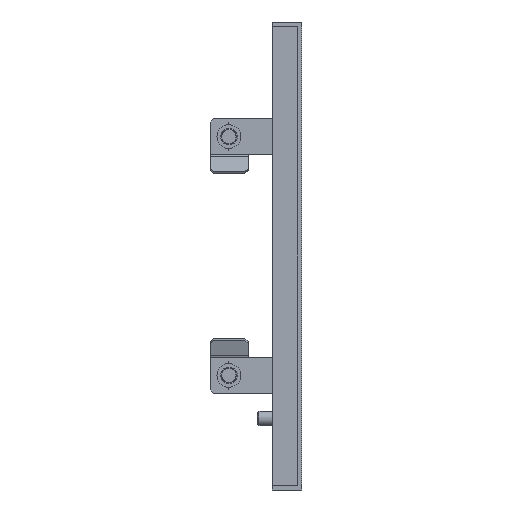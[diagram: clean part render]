
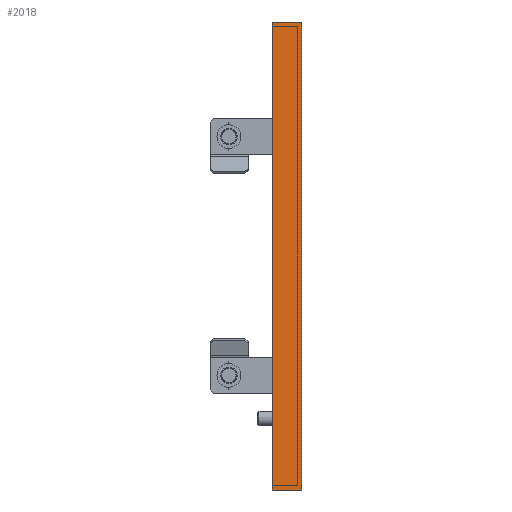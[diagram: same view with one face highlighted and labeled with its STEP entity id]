
A CAD part, front view. The second image highlights one B-rep face of the part: STEP entity #2018.
In plain terms, the highlighted planar face has unit normal (0, -1, 0).
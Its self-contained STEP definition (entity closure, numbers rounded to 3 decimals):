
#1184 = EDGE_CURVE ( 'NONE', #18936, #17950, #17186, .T. ) ;
#2018 = ADVANCED_FACE ( 'NONE', ( #4466 ), #4335, .F. ) ;
#2419 = DIRECTION ( 'NONE',  ( 1., 0., 0. ) ) ;
#2530 = AXIS2_PLACEMENT_3D ( 'NONE', #6642, #12158, #2419 ) ;
#3379 = EDGE_CURVE ( 'NONE', #18936, #22740, #4625, .T. ) ;
#3384 = ORIENTED_EDGE ( 'NONE', *, *, #1184, .T. ) ;
#3612 = CARTESIAN_POINT ( 'NONE',  ( 0., -297.5, -98. ) ) ;
#4305 = VECTOR ( 'NONE', #24802, 1000. ) ;
#4335 = PLANE ( 'NONE',  #2530 ) ;
#4466 = FACE_OUTER_BOUND ( 'NONE', #7289, .T. ) ;
#4625 = LINE ( 'NONE', #14859, #11773 ) ;
#4679 = VECTOR ( 'NONE', #23100, 1000. ) ;
#6642 = CARTESIAN_POINT ( 'NONE',  ( -2., -297.5, 0. ) ) ;
#7148 = VERTEX_POINT ( 'NONE', #24145 ) ;
#7289 = EDGE_LOOP ( 'NONE', ( #15653, #3384, #22276, #17327 ) ) ;
#8729 = CARTESIAN_POINT ( 'NONE',  ( -12.5, -297.5, 0. ) ) ;
#9398 = CARTESIAN_POINT ( 'NONE',  ( 0., -297.5, 0. ) ) ;
#11497 = VECTOR ( 'NONE', #19106, 1000. ) ;
#11773 = VECTOR ( 'NONE', #12447, 1000. ) ;
#12158 = DIRECTION ( 'NONE',  ( 0., 1., 0. ) ) ;
#12447 = DIRECTION ( 'NONE',  ( -1., 0., 0. ) ) ;
#14859 = CARTESIAN_POINT ( 'NONE',  ( 2.928, -297.5, -98. ) ) ;
#15317 = CARTESIAN_POINT ( 'NONE',  ( 2.928, -297.5, 98. ) ) ;
#15629 = EDGE_CURVE ( 'NONE', #7148, #22740, #18556, .T. ) ;
#15653 = ORIENTED_EDGE ( 'NONE', *, *, #3379, .F. ) ;
#16983 = LINE ( 'NONE', #15317, #4679 ) ;
#17186 = LINE ( 'NONE', #9398, #11497 ) ;
#17327 = ORIENTED_EDGE ( 'NONE', *, *, #15629, .T. ) ;
#17950 = VERTEX_POINT ( 'NONE', #22396 ) ;
#18349 = CARTESIAN_POINT ( 'NONE',  ( -12.5, -297.5, -98. ) ) ;
#18556 = LINE ( 'NONE', #8729, #4305 ) ;
#18936 = VERTEX_POINT ( 'NONE', #3612 ) ;
#19106 = DIRECTION ( 'NONE',  ( 0., 0., 1. ) ) ;
#20902 = EDGE_CURVE ( 'NONE', #17950, #7148, #16983, .T. ) ;
#22276 = ORIENTED_EDGE ( 'NONE', *, *, #20902, .T. ) ;
#22396 = CARTESIAN_POINT ( 'NONE',  ( 0., -297.5, 98. ) ) ;
#22740 = VERTEX_POINT ( 'NONE', #18349 ) ;
#23100 = DIRECTION ( 'NONE',  ( -1., 0., 0. ) ) ;
#24145 = CARTESIAN_POINT ( 'NONE',  ( -12.5, -297.5, 98. ) ) ;
#24802 = DIRECTION ( 'NONE',  ( 0., 0., -1. ) ) ;
